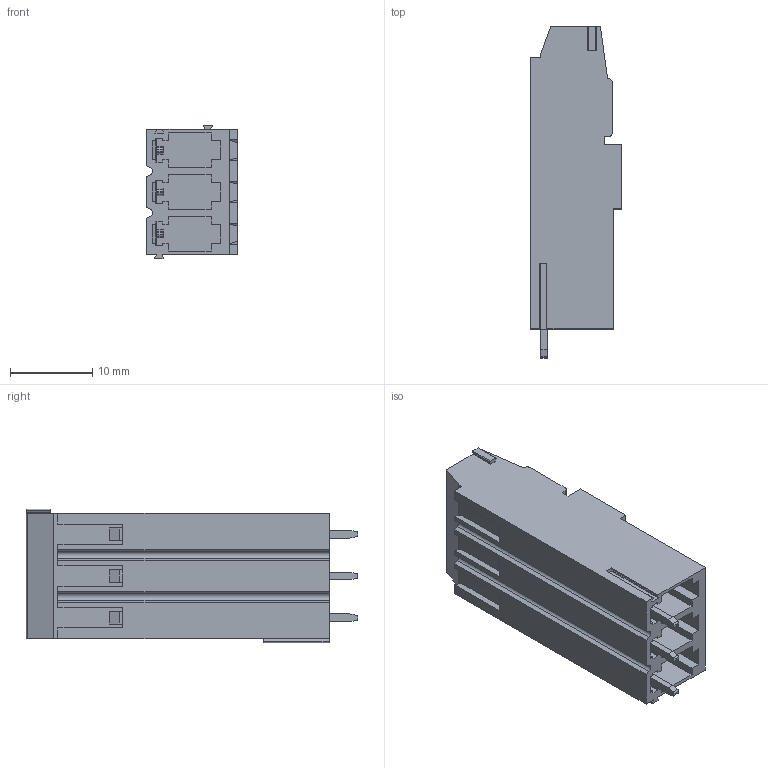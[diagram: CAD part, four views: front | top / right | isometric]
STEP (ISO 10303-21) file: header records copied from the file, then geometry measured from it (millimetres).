
FILE_DESCRIPTION((''),'2;1');
FILE_NAME('3PIN_SW0001','2019-06-04T',('zhenbing.lai'),(''),'CREO PARAMETRIC BY PTC INC, 2016260','CREO PARAMETRIC BY PTC INC, 2016260','');
FILE_SCHEMA(('CONFIG_CONTROL_DESIGN'));
Length unit declared in the file: millimetre
Products named in the file (1): 3PIN_SW0001
Bounding box: 11.16 x 40.3 x 16.24 mm (x, y, z)
Volume: 4214.1 mm3; surface area: 4052 mm2
Topology: 1 solids, 1 shells, 387 faces, 1132 edges, 747 vertices
Faces by surface type: plane 273, cylinder 87, torus 12, cone 9, bspline 6
Entity records: 14571 total; most frequent: CARTESIAN_POINT 4366, ORIENTED_EDGE 2264, DIRECTION 1931, EDGE_CURVE 1132, VECTOR 759, LINE 759, VERTEX_POINT 747, AXIS2_PLACEMENT_3D 586
